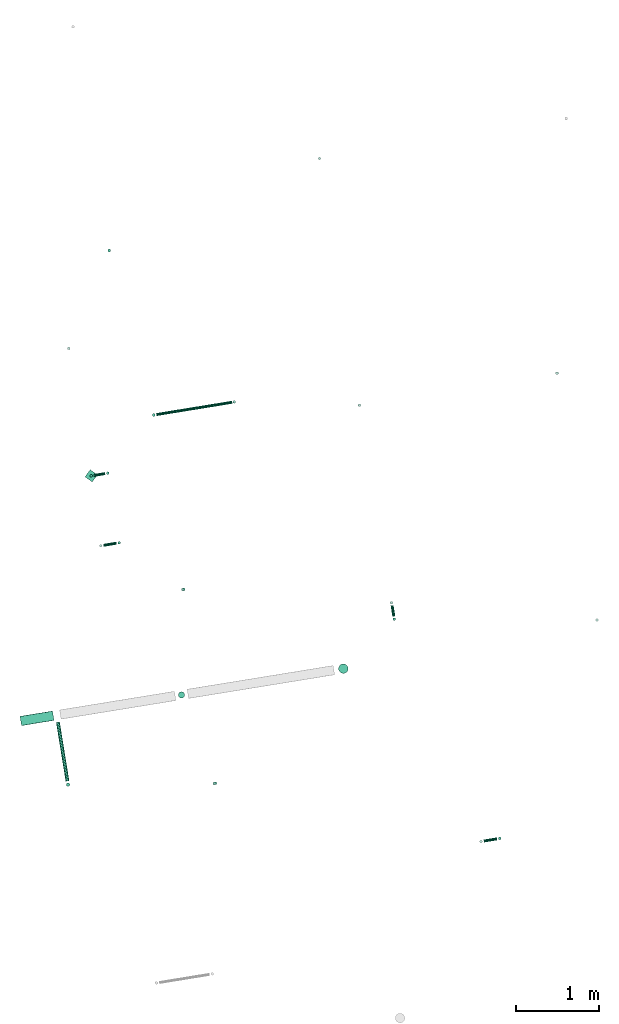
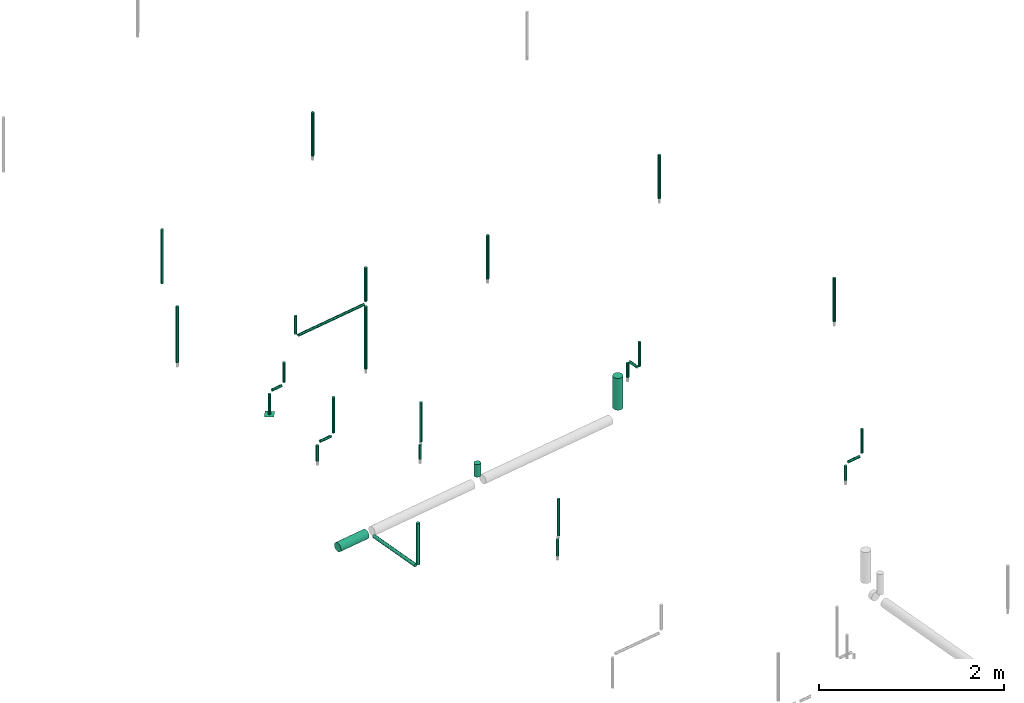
# One storey, part 3 of 8: 31 flow segments, 1 flow terminal.
"""IFC2X3 building model written with IfcOpenShell, lengths in millimetres."""

import ifcopenshell
import ifcopenshell.guid

model = None  # the IFC model being written
_history = None  # IfcOwnerHistory: only IFC2X3 demands one
_inside = {}  # id of a spatial element -> (the spatial element, [elements in it])
_under = {}  # id of a project, library or spatial element -> (it, [spatial elements below it])
_declared = {}  # id of a project -> (the project, [libraries it declares])
_typed = {}  # id of a type object -> (the type object, [elements of that type])
_made_of = {}  # id of a material, layer set ... -> (it, [elements and type objects made of it])


def new_model(schema):
    """Start an empty IFC model of exactly this schema.

    Asked for "IFC4X3", IfcOpenShell would pick the latest addendum, in which some entities
    have other attributes; the version numbers below select the first issue.
    IFC2X3 requires an IfcOwnerHistory on every rooted entity: one is made here for all.
    """
    global model, _history
    if schema == "IFC4X3":
        model = ifcopenshell.file(schema_version=(4, 3, 0, 0))
    else:
        model = ifcopenshell.file(schema=schema)
    _inside.clear()
    _under.clear()
    _declared.clear()
    _typed.clear()
    _made_of.clear()
    _history = None
    if model.schema == "IFC2X3":
        org = make("IfcOrganization", Name="unknown")
        user = make(
            "IfcPersonAndOrganization",
            ThePerson=make("IfcPerson", FamilyName="unknown"),
            TheOrganization=org,
        )
        app = make(
            "IfcApplication",
            ApplicationDeveloper=org,
            Version="unknown",
            ApplicationFullName="unknown",
            ApplicationIdentifier="unknown",
        )
        _history = make(
            "IfcOwnerHistory",
            OwningUser=user,
            OwningApplication=app,
            ChangeAction="ADDED",
            CreationDate=0,
        )
    return model


def make(cls, **values):
    """One entity of the class cls with the attributes given. An attribute that is None is left unset."""
    return model.create_entity(
        cls, **{name: value for name, value in values.items() if value is not None}
    )


def entity(cls, *values):
    """Any entity or typed value of the class cls, its attributes in the order of the schema. None: left unset."""
    e = model.create_entity(cls)
    for i, value in enumerate(values):
        if value is not None:
            e[i] = value
    return e


def rooted(cls, **values):
    """An entity with a GlobalId (a new one), such as an element, a storey or a relation."""
    return make(cls, GlobalId=ifcopenshell.guid.new(), OwnerHistory=_history, **values)


def si_unit(unit_type, name, prefix=None):
    """IfcSIUnit, for example si_unit("LENGTHUNIT", "METRE", prefix="MILLI")."""
    return make("IfcSIUnit", UnitType=unit_type, Prefix=prefix, Name=name)


def converted_unit(unit_type, name, factor, base, dimensions=None, offset=None):
    """IfcConversionBasedUnit, such as the inch: factor (a typed value) times the base unit."""
    return make(
        "IfcConversionBasedUnit"
        if offset is None
        else "IfcConversionBasedUnitWithOffset",
        ConversionOffset=offset,
        Dimensions=None
        if dimensions is None
        else entity("IfcDimensionalExponents", *dimensions),
        UnitType=unit_type,
        Name=name,
        ConversionFactor=make(
            "IfcMeasureWithUnit", ValueComponent=factor, UnitComponent=base
        ),
    )


def derived_unit(unit_type, elements):
    """IfcDerivedUnit: a product of units, each with its exponent."""
    return make(
        "IfcDerivedUnit",
        Elements=[
            make("IfcDerivedUnitElement", Unit=unit, Exponent=power)
            for unit, power in elements
        ],
        UnitType=unit_type,
    )


def assignment(units):
    """IfcUnitAssignment: the units of a project."""
    return None if units is None else make("IfcUnitAssignment", Units=units)


def point(xyz):
    """IfcCartesianPoint."""
    return None if xyz is None else make("IfcCartesianPoint", Coordinates=xyz)


def direction(xyz):
    """IfcDirection."""
    return None if xyz is None else make("IfcDirection", DirectionRatios=xyz)


def frame(location, z_axis=None, x_axis=None):
    """IfcAxis2Placement3D, a coordinate frame: its origin and axes. An axis left out is left unset."""
    return make(
        "IfcAxis2Placement3D",
        Location=point(location),
        Axis=direction(z_axis),
        RefDirection=direction(x_axis),
    )


def frame_2d(location, x_axis=None):
    """IfcAxis2Placement2D, a coordinate frame in the plane: its origin and x axis."""
    return make(
        "IfcAxis2Placement2D", Location=point(location), RefDirection=direction(x_axis)
    )


def origin():
    """The frame at (0, 0, 0) with its axes left unset."""
    return frame((0.0, 0.0, 0.0))


def origin_with_axes():
    """The frame at (0, 0, 0) with the z axis (0, 0, 1) and the x axis (1, 0, 0) written out."""
    return frame((0.0, 0.0, 0.0), z_axis=(0.0, 0.0, 1.0), x_axis=(1.0, 0.0, 0.0))


def origin_2d_with_axis():
    """The frame at (0, 0) in the plane with the x axis (1, 0) written out."""
    return frame_2d((0.0, 0.0), x_axis=(1.0, 0.0))


def place(relative_to, where):
    """IfcLocalPlacement: puts the frame where relative to a parent placement (None: the world)."""
    return make(
        "IfcLocalPlacement", PlacementRelTo=relative_to, RelativePlacement=where
    )


def context(
    kind, dimensions, precision=None, world=None, true_north=None, identifier=None
):
    """IfcGeometricRepresentationContext, for example the 3D "Model" context."""
    return make(
        "IfcGeometricRepresentationContext",
        ContextIdentifier=identifier,
        ContextType=kind,
        CoordinateSpaceDimension=dimensions,
        Precision=precision,
        WorldCoordinateSystem=world,
        TrueNorth=true_north,
    )


def subcontext(parent, identifier, kind, view, scale=None):
    """IfcGeometricRepresentationSubContext, for example "Body" below "Model"."""
    return make(
        "IfcGeometricRepresentationSubContext",
        ContextIdentifier=identifier,
        ContextType=kind,
        ParentContext=parent,
        TargetScale=scale,
        TargetView=view,
    )


def project(units=None, contexts=None):
    """IfcProject with its units and contexts."""
    return rooted(
        "IfcProject",
        Name="project",
        RepresentationContexts=contexts,
        UnitsInContext=assignment(units),
    )


def spatial(cls, under=None, at=None, **own):
    """A site, building, storey or space (cls), placed at a placement, below another one or the project."""
    s = rooted(cls, ObjectPlacement=at, **own)
    if under is not None:
        _under.setdefault(under.id(), (under, []))[1].append(s)
    return s


def profile(cls, at=None, kind="AREA", **sizes):
    """A parametric profile (cls). Its sizes go by their IFC names, for example OverallWidth=200.0."""
    return make(cls, ProfileType=kind, Position=at, **sizes)


def rectangle(**sizes):
    """IfcRectangleProfileDef."""
    return profile("IfcRectangleProfileDef", **sizes)


def circle(**sizes):
    """IfcCircleProfileDef."""
    return profile("IfcCircleProfileDef", **sizes)


def extrude(swept, where, along, depth):
    """IfcExtrudedAreaSolid: the profile swept, set in the frame where, extruded along a direction by depth."""
    return make(
        "IfcExtrudedAreaSolid",
        SweptArea=swept,
        Position=where,
        ExtrudedDirection=direction(along),
        Depth=depth,
    )


def shape(context_of_items, identifier, shape_type, items):
    """IfcShapeRepresentation: the items that make up one representation, for example the "Body"."""
    return make(
        "IfcShapeRepresentation",
        ContextOfItems=context_of_items,
        RepresentationIdentifier=identifier,
        RepresentationType=shape_type,
        Items=items,
    )


def source(mapping_origin, context_of_items, identifier, shape_type, items):
    """IfcRepresentationMap: a shape defined once, which mapped items show again and again."""
    return make(
        "IfcRepresentationMap",
        MappingOrigin=mapping_origin,
        MappedRepresentation=shape(context_of_items, identifier, shape_type, items),
    )


def transform(
    local_origin,
    x_axis=None,
    y_axis=None,
    z_axis=None,
    scale=None,
    scale2=None,
    scale3=None,
    uniform=True,
):
    """IfcCartesianTransformationOperator3D, or its non-uniform kind. x_axis, y_axis, z_axis: its Axis1, 2, 3."""
    if uniform:
        return make(
            "IfcCartesianTransformationOperator3D",
            Axis1=direction(x_axis),
            Axis2=direction(y_axis),
            LocalOrigin=point(local_origin),
            Scale=scale,
            Axis3=direction(z_axis),
        )
    return make(
        "IfcCartesianTransformationOperator3DnonUniform",
        Axis1=direction(x_axis),
        Axis2=direction(y_axis),
        LocalOrigin=point(local_origin),
        Scale=scale,
        Axis3=direction(z_axis),
        Scale2=scale2,
        Scale3=scale3,
    )


def mapped(mapping_source, mapping_target):
    """IfcMappedItem: shows the shape of a source again, moved by a transform."""
    return make(
        "IfcMappedItem", MappingSource=mapping_source, MappingTarget=mapping_target
    )


def material(Name=None, Category=None):
    """IfcMaterial."""
    return make("IfcMaterial", Name=Name, Category=Category)


def made_of(thing, what):
    """Note that an element or type object is made of a material, layer set ...; save() writes the relation."""
    if what is not None:
        _made_of.setdefault(what.id(), (what, []))[1].append(thing)
    return thing


def type_object(cls, material=None, **own):
    """A type object (cls), such as IfcWallType, which elements share."""
    return made_of(rooted(cls, **own), material)


def element(
    cls,
    number,
    at=None,
    inside=None,
    cuts=None,
    type_object=None,
    material=None,
    context=None,
    identifier="Body",
    shape_type=None,
    held_by="IfcProductDefinitionShape",
    body=None,
    shapes=None,
    **own,
):
    """One element of the class cls, such as IfcWall. Its Tag is "e" and its number.

    at: its placement. inside: the storey or other place that contains it. cuts: it is an
    opening in that element (IfcRelVoidsElement). A single representation is given by context,
    identifier, shape_type and body (its items); several are given by shapes. held_by: the class
    of the entity that holds the representations. save() writes the other relations.
    """
    e = rooted(cls, Tag="e%d" % number, ObjectPlacement=at, **own)
    if body is not None:
        shapes = [shape(context, identifier, shape_type, body)]
    if shapes is not None:
        e.Representation = make(held_by, Representations=shapes)
    if inside is not None:
        _inside.setdefault(inside.id(), (inside, []))[1].append(e)
    if cuts is not None:
        rooted(
            "IfcRelVoidsElement", RelatingBuildingElement=cuts, RelatedOpeningElement=e
        )
    if type_object is not None:
        _typed.setdefault(type_object.id(), (type_object, []))[1].append(e)
    return made_of(e, material)


def aggregate(whole, parts):
    """IfcRelAggregates: a whole, such as a stair, and the parts it consists of."""
    return rooted("IfcRelAggregates", RelatingObject=whole, RelatedObjects=parts)


def save(model, path):
    """Write the relations noted so far, then the file.

    IfcRelAggregates (storeys below a building ...), IfcRelContainedInSpatialStructure (elements
    in a storey), IfcRelDefinesByType, IfcRelAssociatesMaterial and IfcRelDeclares: one each for
    every whole, place, type object, material and project.
    """
    for whole, parts in _under.values():
        aggregate(whole, parts)
    for where, things in _inside.values():
        rooted(
            "IfcRelContainedInSpatialStructure",
            RelatedElements=things,
            RelatingStructure=where,
        )
    for kind, things in _typed.values():
        rooted("IfcRelDefinesByType", RelatedObjects=things, RelatingType=kind)
    for what, things in _made_of.values():
        rooted("IfcRelAssociatesMaterial", RelatedObjects=things, RelatingMaterial=what)
    for by, libraries in _declared.values():
        rooted("IfcRelDeclares", RelatingContext=by, RelatedDefinitions=libraries)
    model.write(path)


model = new_model("IFC2X3")

# Units and contexts
plan_context = context("Plan", 3, precision=1e-05, world=origin_with_axes())
model_context = context("Model", 3, precision=0.01, world=origin(), true_north=direction((6.12323399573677e-17, 1.0)))
body_context = subcontext(model_context, "Body", "Model", "MODEL_VIEW")
ifc_project = project(units=[converted_unit("PLANEANGLEUNIT", "DEGREE", entity("IfcPositiveLengthMeasure", 0.0174532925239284), si_unit("PLANEANGLEUNIT", "RADIAN"), dimensions=[0, 0, 0, 0, 0, 0, 0]), si_unit("AREAUNIT", "SQUARE_METRE"), si_unit("LENGTHUNIT", "METRE", prefix="MILLI"), si_unit("MASSUNIT", "GRAM", prefix="KILO"), si_unit("POWERUNIT", "WATT"), si_unit("PRESSUREUNIT", "PASCAL", prefix="KILO"), si_unit("FORCEUNIT", "NEWTON", prefix="KILO"), si_unit("ELECTRICVOLTAGEUNIT", "VOLT"), si_unit("ELECTRICCURRENTUNIT", "AMPERE"), si_unit("THERMODYNAMICTEMPERATUREUNIT", "DEGREE_CELSIUS"), si_unit("TIMEUNIT", "SECOND"), si_unit("VOLUMEUNIT", "CUBIC_METRE"), derived_unit("LINEARVELOCITYUNIT", [(si_unit("LENGTHUNIT", "METRE"), 1), (si_unit("TIMEUNIT", "SECOND"), -1)]), derived_unit("VOLUMETRICFLOWRATEUNIT", [(si_unit("VOLUMEUNIT", "CUBIC_METRE"), 1), (si_unit("TIMEUNIT", "SECOND"), -1)]), derived_unit("THERMALTRANSMITTANCEUNIT", [(si_unit("POWERUNIT", "WATT"), 1), (si_unit("THERMODYNAMICTEMPERATUREUNIT", "KELVIN"), -1), (si_unit("AREAUNIT", "SQUARE_METRE"), -1)]), derived_unit("SOUNDPRESSUREUNIT", [(si_unit("PRESSUREUNIT", "PASCAL"), 1)])], contexts=[model_context, plan_context])

# Site, building, storey
site_placement = place(None, frame((-0.00071070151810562, 0.00438415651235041, 0.0), z_axis=(0.0, 0.0, 1.0), x_axis=(-0.160236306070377, 0.987078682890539, 0.0)))
site = spatial("IfcSite", under=ifc_project, at=site_placement, Name="Default", CompositionType="ELEMENT")
building_placement = place(site_placement, origin_with_axes())
building = spatial("IfcBuilding", under=site, at=building_placement, CompositionType="ELEMENT")
storey_placement = place(building_placement, frame((0.0, 0.0, 58999.9999999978), z_axis=(0.0, 0.0, 1.0), x_axis=(1.0, 0.0, 0.0)))
storey = spatial("IfcBuildingStorey", under=building, at=storey_placement, Name="Nivå F", CompositionType="ELEMENT", Elevation=58999.9999999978)

# Flow terminal
ifc_material = material(Name="2dsblk")
fire_suppression_terminal_type = type_object("IfcFireSuppressionTerminalType", Name="UZ014T:Dyse/Spreder - UZ014T", PredefinedType="NOTDEFINED", material=ifc_material)
shared_shape = source(origin(), body_context, "Body", "SweptSolid", [
    extrude(rectangle(XDim=106.066017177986, YDim=106.066017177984, at=frame_2d((-1.02673425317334e-12, -10.6066017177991), x_axis=(1.0, 0.0))), frame((7.50000000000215, 7.50000000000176, -0.1), z_axis=(0.0, 0.0, 1.0), x_axis=(0.707106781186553, -0.707106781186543, 0.0)), (0.0, 0.0, 1.0), 0.2),
])
flow_terminal_placement = place(storey_placement, frame((779978.277832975, -502178.834705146, 2550.0), z_axis=(0.0, 0.0, -1.0), x_axis=(0.0, -1.0, 0.0)))
element("IfcFlowTerminal", 1, at=flow_terminal_placement, inside=storey, type_object=fire_suppression_terminal_type, material=ifc_material, Name="UZ014T:Dyse/Spreder - UZ014T", ObjectType="UZ014T:Dyse/Spreder - UZ014T", context=body_context, shape_type="MappedRepresentation", body=[
    mapped(shared_shape, transform((0.0, 0.0, 0.0), scale=1.0)),
])

# Flow segments
pipe_segment_type = type_object("IfcPipeSegmentType", Name="Pipe Types:Stålrør normaltykke", PredefinedType="NOTDEFINED")
flow_segment_1_placement = place(storey_placement, origin_with_axes())
element("IfcFlowSegment", 2, at=flow_segment_1_placement, inside=storey, type_object=pipe_segment_type, Name="Pipe Types:Stålrør normaltykke", ObjectType="Pipe Types:Stålrør normaltykke", context=body_context, shape_type="SweptSolid", body=[
    extrude(circle(Radius=16.8500004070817, at=origin_2d_with_axis()), frame((776097.619644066, -503043.480498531, 2403.04800000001)), (0.0, 0.0, 1.0), 215.94331729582),
])
flow_segment_2_placement = place(storey_placement, origin_with_axes())
element("IfcFlowSegment", 3, at=flow_segment_2_placement, inside=storey, type_object=pipe_segment_type, Name="Pipe Types:Stålrør normaltykke", ObjectType="Pipe Types:Stålrør normaltykke", context=body_context, shape_type="SweptSolid", body=[
    extrude(circle(Radius=16.8500004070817, at=origin_2d_with_axis()), frame((779131.619644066, -502157.480498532, 2403.04800000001)), (0.0, 0.0, 1.0), 206.200000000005),
])
flow_segment_3_placement = place(storey_placement, origin_with_axes())
element("IfcFlowSegment", 4, at=flow_segment_3_placement, inside=storey, type_object=pipe_segment_type, Name="Pipe Types:Stålrør normaltykke", ObjectType="Pipe Types:Stålrør normaltykke", context=body_context, shape_type="SweptSolid", body=[
    extrude(circle(Radius=16.8500004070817, at=origin_2d_with_axis()), frame((780297.619644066, -505493.480498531, 2703.048)), (0.0, 0.0, 1.0), 576.152000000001),
])
flow_segment_4_placement = place(storey_placement, origin_with_axes())
element("IfcFlowSegment", 5, at=flow_segment_4_placement, inside=storey, type_object=pipe_segment_type, Name="Pipe Types:Stålrør normaltykke", ObjectType="Pipe Types:Stålrør normaltykke", context=body_context, shape_type="SweptSolid", body=[
    extrude(circle(Radius=16.8500004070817, at=origin_2d_with_axis()), frame((780297.619644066, -507893.480498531, 2703.048)), (0.0, 0.0, 1.0), 576.152000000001),
])
flow_segment_5_placement = place(storey_placement, origin_with_axes())
element("IfcFlowSegment", 6, at=flow_segment_5_placement, inside=storey, type_object=pipe_segment_type, Name="Pipe Types:Stålrør normaltykke", ObjectType="Pipe Types:Stålrør normaltykke", context=body_context, shape_type="SweptSolid", body=[
    extrude(circle(Radius=16.8500004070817, at=origin_2d_with_axis()), frame((774897.619644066, -506093.480498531, 2703.04800000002)), (0.0, 0.0, 1.0), 189.981559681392),
])
flow_segment_6_placement = place(storey_placement, origin_with_axes())
element("IfcFlowSegment", 7, at=flow_segment_6_placement, inside=storey, type_object=pipe_segment_type, Name="Pipe Types:Stålrør normaltykke", ObjectType="Pipe Types:Stålrør normaltykke", context=body_context, shape_type="SweptSolid", body=[
    extrude(circle(Radius=16.8500004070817, at=origin_2d_with_axis()), frame((782612.425186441, -502827.347453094, 2568.048)), (0.0, 0.0, 1.0), 713.151999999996),
])
flow_segment_7_placement = place(storey_placement, origin_with_axes())
element("IfcFlowSegment", 8, at=flow_segment_7_placement, inside=storey, type_object=pipe_segment_type, Name="Pipe Types:Stålrør normaltykke", ObjectType="Pipe Types:Stålrør normaltykke", context=body_context, shape_type="SweptSolid", body=[
    extrude(circle(Radius=16.8500004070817, at=origin_2d_with_axis()), frame((783297.619644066, -505493.480498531, 2703.04800000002)), (0.0, 0.0, 1.0), 576.151999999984),
])
flow_segment_8_placement = place(storey_placement, origin_with_axes())
element("IfcFlowSegment", 9, at=flow_segment_8_placement, inside=storey, type_object=pipe_segment_type, Name="Pipe Types:Stålrør normaltykke", ObjectType="Pipe Types:Stålrør normaltykke", context=body_context, shape_type="SweptSolid", body=[
    extrude(circle(Radius=57.1500016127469, at=origin_2d_with_axis()), frame((777209.619644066, -504795.048673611, 2984.40000000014)), (0.0, 0.0, 1.0), 421.199999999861),
])
flow_segment_9_placement = place(storey_placement, origin_with_axes())
element("IfcFlowSegment", 10, at=flow_segment_9_placement, inside=storey, type_object=pipe_segment_type, Name="Pipe Types:Stålrør normaltykke", ObjectType="Pipe Types:Stålrør normaltykke", context=body_context, shape_type="SweptSolid", body=[
    extrude(circle(Radius=57.1500016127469, at=origin_2d_with_axis()), frame((777209.619644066, -501268.478505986, 2870.0), z_axis=(0.0, 1.0, 0.0), x_axis=(1.0, 0.0, 0.0)), (0.0, 0.0, 1.0), 395.385724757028),
])
flow_segment_10_placement = place(storey_placement, origin_with_axes())
element("IfcFlowSegment", 11, at=flow_segment_10_placement, inside=storey, type_object=pipe_segment_type, Name="Pipe Types:Stålrør normaltykke", ObjectType="Pipe Types:Stålrør normaltykke", context=body_context, shape_type="SweptSolid", body=[
    extrude(circle(Radius=16.8500004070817, at=origin_2d_with_axis()), frame((774897.619644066, -506287.576588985, 2926.82955968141), z_axis=(0.0, 1.0, 0.0), x_axis=(1.0, 0.0, 0.0)), (0.0, 0.0, 1.0), 160.29609045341),
])
flow_segment_11_placement = place(storey_placement, origin_with_axes())
element("IfcFlowSegment", 12, at=flow_segment_11_placement, inside=storey, type_object=pipe_segment_type, Name="Pipe Types:Stålrør normaltykke", ObjectType="Pipe Types:Stålrør normaltykke", context=body_context, shape_type="SweptSolid", body=[
    extrude(circle(Radius=38.0499992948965, at=origin_2d_with_axis()), frame((777209.619644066, -502827.347453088, 2955.8), z_axis=(0.0, 0.0, 1.0), x_axis=(-1.0, 0.0, 0.0)), (0.0, 0.0, 1.0), 167.050000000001),
])
flow_segment_12_placement = place(storey_placement, origin_with_axes())
element("IfcFlowSegment", 13, at=flow_segment_12_placement, inside=storey, type_object=pipe_segment_type, Name="Pipe Types:Stålrør normaltykke", ObjectType="Pipe Types:Stålrør normaltykke", context=body_context, shape_type="SweptSolid", body=[
    extrude(circle(Radius=16.8500004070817, at=origin_2d_with_axis()), frame((778454.619644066, -503043.480498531, 2403.04800000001)), (0.0, 0.0, 1.0), 185.943317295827),
])
flow_segment_13_placement = place(storey_placement, origin_with_axes())
element("IfcFlowSegment", 14, at=flow_segment_13_placement, inside=storey, type_object=pipe_segment_type, Name="Pipe Types:Stålrør normaltykke", ObjectType="Pipe Types:Stålrør normaltykke", context=body_context, shape_type="SweptSolid", body=[
    extrude(circle(Radius=16.8500004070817, at=origin_2d_with_axis()), frame((780578.672711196, -504016.492942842, 2013.04800000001)), (0.0, 0.0, 1.0), 827.028307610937),
])
flow_segment_14_placement = place(storey_placement, origin_with_axes())
element("IfcFlowSegment", 15, at=flow_segment_14_placement, inside=storey, type_object=pipe_segment_type, Name="Pipe Types:Stålrør normaltykke", ObjectType="Pipe Types:Stålrør normaltykke", context=body_context, shape_type="SweptSolid", body=[
    extrude(circle(Radius=16.8500004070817, at=origin_2d_with_axis()), frame((780578.672711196, -504016.492942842, 2907.67630761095)), (0.0, 0.0, 1.0), 445.371692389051),
])
flow_segment_15_placement = place(storey_placement, origin_with_axes())
element("IfcFlowSegment", 16, at=flow_segment_15_placement, inside=storey, type_object=pipe_segment_type, Name="Pipe Types:Stålrør normaltykke", ObjectType="Pipe Types:Stålrør normaltykke", context=body_context, shape_type="SweptSolid", body=[
    extrude(circle(Radius=16.8500004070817, at=frame_2d((0.0, -8.66293703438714e-12), x_axis=(1.0, 0.0))), frame((780578.672711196, -503991.142942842, 2873.87630761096), z_axis=(0.0, 1.0, 0.0), x_axis=(-1.0, 0.0, 0.0)), (0.0, 0.0, 1.0), 921.541519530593),
])
flow_segment_16_placement = place(storey_placement, origin_with_axes())
element("IfcFlowSegment", 17, at=flow_segment_16_placement, inside=storey, type_object=pipe_segment_type, Name="Pipe Types:Stålrør normaltykke", ObjectType="Pipe Types:Stålrør normaltykke", context=body_context, shape_type="SweptSolid", body=[
    extrude(circle(Radius=16.8500004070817, at=origin_2d_with_axis()), frame((781531.619644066, -502157.480498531, 2403.04800000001)), (0.0, 0.0, 1.0), 743.151999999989),
])
flow_segment_17_placement = place(storey_placement, origin_with_axes())
element("IfcFlowSegment", 18, at=flow_segment_17_placement, inside=storey, type_object=pipe_segment_type, Name="Pipe Types:Stålrør normaltykke", ObjectType="Pipe Types:Stålrør normaltykke", context=body_context, shape_type="SweptSolid", body=[
    extrude(circle(Radius=16.8500004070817, at=origin_2d_with_axis()), frame((777897.619644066, -505493.480498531, 2703.048)), (0.0, 0.0, 1.0), 187.032006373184),
])
flow_segment_18_placement = place(storey_placement, origin_with_axes())
element("IfcFlowSegment", 19, at=flow_segment_18_placement, inside=storey, type_object=pipe_segment_type, Name="Pipe Types:Stålrør normaltykke", ObjectType="Pipe Types:Stålrør normaltykke", context=body_context, shape_type="SweptSolid", body=[
    extrude(circle(Radius=16.8500004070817, at=origin_2d_with_axis()), frame((777297.619644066, -507893.480498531, 2703.048)), (0.0, 0.0, 1.0), 576.152000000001),
])
flow_segment_19_placement = place(storey_placement, origin_with_axes())
element("IfcFlowSegment", 20, at=flow_segment_19_placement, inside=storey, type_object=pipe_segment_type, Name="Pipe Types:Stålrør normaltykke", ObjectType="Pipe Types:Stålrør normaltykke", context=body_context, shape_type="SweptSolid", body=[
    extrude(circle(Radius=16.8500004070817, at=frame_2d((0.0, -8.66293703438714e-12), x_axis=(1.0, 0.0))), frame((777731.419644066, -505493.480498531, 2923.88000637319), z_axis=(1.0, 0.0, 0.0), x_axis=(0.0, 1.0, 0.0)), (0.0, 0.0, 1.0), 132.400000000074),
])
flow_segment_20_placement = place(storey_placement, origin_with_axes())
element("IfcFlowSegment", 21, at=flow_segment_20_placement, inside=storey, type_object=pipe_segment_type, Name="Pipe Types:Stålrør normaltykke", ObjectType="Pipe Types:Stålrør normaltykke", context=body_context, shape_type="SweptSolid", body=[
    extrude(circle(Radius=16.8500004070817, at=origin_2d_with_axis()), frame((777697.619644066, -505493.480498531, 2957.68000637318), z_axis=(0.0, 0.0, 1.0), x_axis=(-1.0, 0.0, 0.0)), (0.0, 0.0, 1.0), 321.519993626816),
])
flow_segment_21_placement = place(storey_placement, origin_with_axes())
element("IfcFlowSegment", 22, at=flow_segment_21_placement, inside=storey, type_object=pipe_segment_type, Name="Pipe Types:Stålrør normaltykke", ObjectType="Pipe Types:Stålrør normaltykke", context=body_context, shape_type="SweptSolid", body=[
    extrude(circle(Radius=16.8500004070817, at=origin_2d_with_axis()), frame((774897.619644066, -506321.376588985, 2960.62955968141)), (0.0, 0.0, 1.0), 318.57044031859),
])
flow_segment_22_placement = place(storey_placement, origin_with_axes())
element("IfcFlowSegment", 23, at=flow_segment_22_placement, inside=storey, type_object=pipe_segment_type, Name="Pipe Types:Stålrør normaltykke", ObjectType="Pipe Types:Stålrør normaltykke", context=body_context, shape_type="SweptSolid", body=[
    extrude(circle(Radius=16.8500004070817, at=origin_2d_with_axis()), frame((778454.619644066, -503055.67060972, 2628.21857463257)), (0.0, 0.0, 1.0), 517.981425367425),
])
flow_segment_23_placement = place(storey_placement, origin_with_axes())
element("IfcFlowSegment", 24, at=flow_segment_23_placement, inside=storey, type_object=pipe_segment_type, Name="Pipe Types:Stålrør normaltykke", ObjectType="Pipe Types:Stålrør normaltykke", context=body_context, shape_type="SweptSolid", body=[
    extrude(circle(Radius=16.8500004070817, at=origin_2d_with_axis()), frame((776097.619644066, -503058.480498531, 2663.08544481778)), (0.0, 0.0, 1.0), 483.114555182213),
])
flow_segment_24_placement = place(storey_placement, origin_with_axes())
element("IfcFlowSegment", 25, at=flow_segment_24_placement, inside=storey, type_object=pipe_segment_type, Name="Pipe Types:Stålrør normaltykke", ObjectType="Pipe Types:Stålrør normaltykke", context=body_context, shape_type="SweptSolid", body=[
    extrude(circle(Radius=16.8500004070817, at=origin_2d_with_axis()), frame((779131.619644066, -502382.208447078, 2676.84800000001)), (0.0, 0.0, 1.0), 469.351999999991),
])
flow_segment_25_placement = place(storey_placement, origin_with_axes())
element("IfcFlowSegment", 26, at=flow_segment_25_placement, inside=storey, type_object=pipe_segment_type, Name="Pipe Types:Stålrør normaltykke", ObjectType="Pipe Types:Stålrør normaltykke", context=body_context, shape_type="SweptSolid", body=[
    extrude(circle(Radius=16.8500004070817, at=frame_2d((0.0, -8.66293703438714e-12), x_axis=(1.0, 0.0))), frame((779131.619644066, -502348.408447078, 2643.048), z_axis=(0.0, 1.0, 0.0), x_axis=(1.0, 0.0, 0.0)), (0.0, 0.0, 1.0), 157.127948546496),
])
flow_segment_26_placement = place(storey_placement, origin_with_axes())
element("IfcFlowSegment", 27, at=flow_segment_26_placement, inside=storey, type_object=pipe_segment_type, Name="Pipe Types:Stålrør normaltykke", ObjectType="Pipe Types:Stålrør normaltykke", context=body_context, shape_type="SweptSolid", body=[
    extrude(circle(Radius=21.2000007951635, at=origin_2d_with_axis()), frame((776365.368610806, -501310.878505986, 2912.40000000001)), (0.0, 0.0, 1.0), 545.929045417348),
])
flow_segment_27_placement = place(storey_placement, origin_with_axes())
element("IfcFlowSegment", 28, at=flow_segment_27_placement, inside=storey, type_object=pipe_segment_type, Name="Pipe Types:Stålrør normaltykke", ObjectType="Pipe Types:Stålrør normaltykke", context=body_context, shape_type="SweptSolid", body=[
    extrude(circle(Radius=21.2000007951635, at=origin_2d_with_axis()), frame((776407.768610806, -501310.878505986, 2870.0), z_axis=(1.0, 0.0, 0.0), x_axis=(0.0, 1.0, 0.0)), (0.0, 0.0, 1.0), 716.051033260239),
])
flow_segment_28_placement = place(storey_placement, origin_with_axes())
element("IfcFlowSegment", 29, at=flow_segment_28_placement, inside=storey, type_object=pipe_segment_type, Name="Pipe Types:Stålrør normaltykke", ObjectType="Pipe Types:Stålrør normaltykke", context=body_context, shape_type="SweptSolid", body=[
    extrude(circle(Radius=16.8500004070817, at=origin_2d_with_axis()), frame((780578.672711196, -503035.801423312, 2907.67630761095), z_axis=(0.0, 0.0, 1.0), x_axis=(-1.0, 0.0, 0.0)), (0.0, 0.0, 1.0), 238.523692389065),
])
flow_segment_29_placement = place(storey_placement, origin_with_axes())
element("IfcFlowSegment", 30, at=flow_segment_29_placement, inside=storey, type_object=pipe_segment_type, Name="Pipe Types:Stålrør normaltykke", ObjectType="Pipe Types:Stålrør normaltykke", context=body_context, shape_type="SweptSolid", body=[
    extrude(circle(Radius=16.8500004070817, at=origin_2d_with_axis()), frame((779978.277832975, -502178.834705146, 2553.04799999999), z_axis=(0.0, 0.0, 1.0), x_axis=(-1.0, 0.0, 0.0)), (0.0, 0.0, 1.0), 266.200000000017),
])
flow_segment_30_placement = place(storey_placement, origin_with_axes())
element("IfcFlowSegment", 31, at=flow_segment_30_placement, inside=storey, type_object=pipe_segment_type, Name="Pipe Types:Stålrør normaltykke", ObjectType="Pipe Types:Stålrør normaltykke", context=body_context, shape_type="SweptSolid", body=[
    extrude(circle(Radius=16.8500004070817, at=origin_2d_with_axis()), frame((779978.277832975, -502347.534705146, 2853.04800000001), z_axis=(0.0, 1.0, 0.0), x_axis=(-1.0, 0.0, 0.0)), (0.0, 0.0, 1.0), 134.899999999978),
])
flow_segment_31_placement = place(storey_placement, origin_with_axes())
element("IfcFlowSegment", 32, at=flow_segment_31_placement, inside=storey, type_object=pipe_segment_type, Name="Pipe Types:Stålrør normaltykke", ObjectType="Pipe Types:Stålrør normaltykke", context=body_context, shape_type="SweptSolid", body=[
    extrude(circle(Radius=16.8500004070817, at=origin_2d_with_axis()), frame((779978.277832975, -502381.334705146, 2886.84800000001), z_axis=(0.0, 0.0, 1.0), x_axis=(-1.0, 0.0, 0.0)), (0.0, 0.0, 1.0), 259.351999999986),
])

save(model, "model.ifc")
